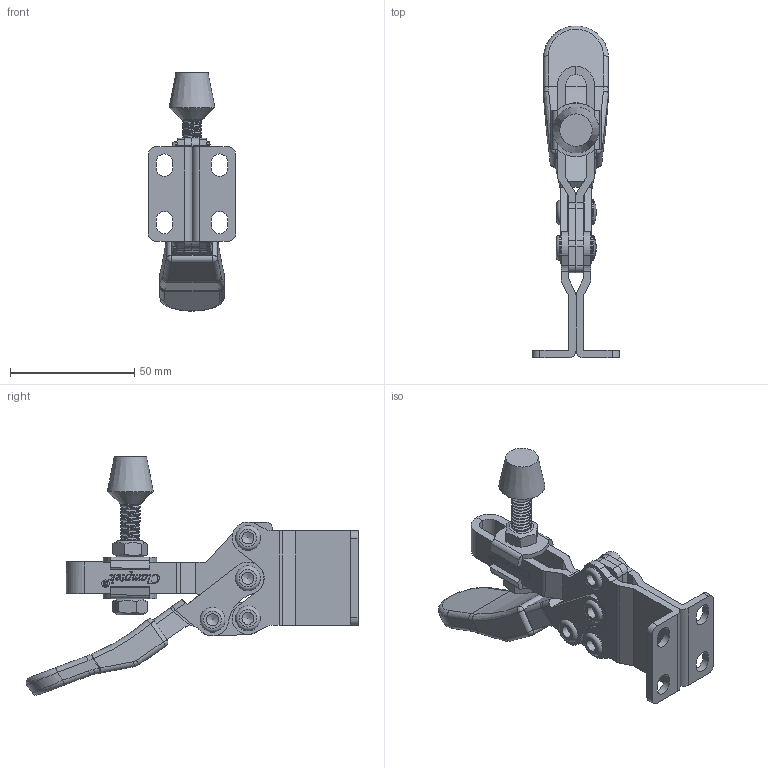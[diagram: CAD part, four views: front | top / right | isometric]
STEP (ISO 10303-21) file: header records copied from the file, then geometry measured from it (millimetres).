
FILE_DESCRIPTION(/* description */ ('STEP AP203'),/* implementation_level */ '2;1');
FILE_NAME(/* name */ 'E:\STRONA\Horizontal toggle clamp\CH-225-DHB\CH-225-DHB_OTWARTY.stp',/* time_stamp */ '2019-01-14T14:24:29+01:00',/* author */ ('Admin'),/* organization */ ('·L?¤¤?'),/* preprocessor_version */ 'ST-DEVELOPER v17.2',/* originating_system */ 'Autodesk Inventor 2019',/* authorisation */ '');
FILE_SCHEMA (('AUTOMOTIVE_DESIGN { 1 0 10303 214 3 1 1 }'));
Products named in the file (11): CH-225-DHB_OTWARTY; CH-FC-56212___; 225-D-04___; 225-DHB-01___; FW-516___; 56212-01___; 225-D-03___; 225-D-03____1; 1___; 225-DHB-02___; 225-D-05___
Assembly tree (16 placements, depth 3):
  CH-225-DHB_OTWARTY
    FW-516___  x2
    225-D-04___  x2
    CH-FC-56212___
    225-DHB-01___
    225-D-05___  x4
    56212-01___  x2
    225-D-03___
      225-D-03____1
      1___
    225-DHB-02___
Bounding box: 35 x 133.37 x 95.81 mm (x, y, z)
Volume: 46994.9 mm3; surface area: 41041 mm2
Topology: 17 solids, 17 shells, 794 faces, 2179 edges, 1453 vertices
Faces by surface type: plane 357, bspline 202, cylinder 187, torus 20, cone 16, sphere 12
Full cylindrical faces by diameter (mm): 2 x1, 3 x1, 4.833 x4, 6.3 x10, 6.4 x16, 7.92 x32, 8.1 x2, 10 x8
Entity records: 51659 total; most frequent: CARTESIAN_POINT 34224, ORIENTED_EDGE 3924, DIRECTION 2902, EDGE_CURVE 1962, VERTEX_POINT 1302, LINE 1120, VECTOR 1120, AXIS2_PLACEMENT_3D 891
